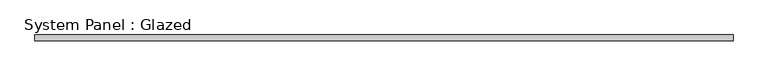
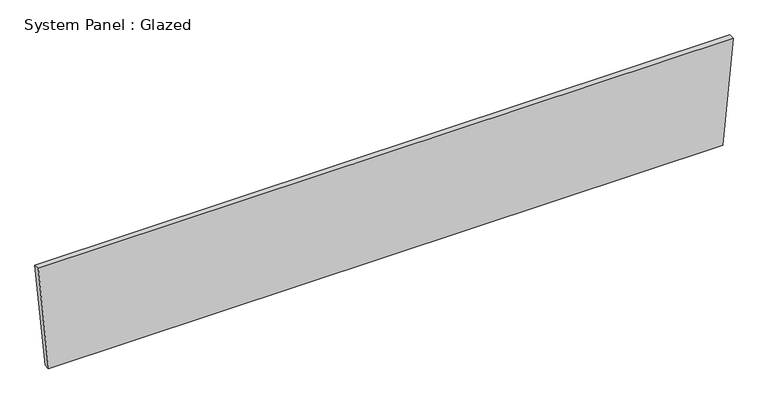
"""IFC4 building model written with IfcOpenShell, lengths in millimetres: plate geometry, System Panel : Glazed."""

from ifc_helpers import new_model, si_unit, frame, origin, place, context, project, spatial, polyline, outline, extrude, source, transform, mapped, element, save


def system_panel_glazed_4835debb(model_context):
    return source(origin(), model_context, "Body", "SweptSolid", [
        extrude(outline(polyline([(0.0, -1479.3854233), (0.0, 1479.3854233), (480.5136963, 1524.0), (480.5136963, -1524.0), (0.0, -1479.3854233)])), frame((0.0, -44.45, 0.0), z_axis=(0.0, 1.0, 0.0), x_axis=(0.0, 0.0, 1.0)), (0.0, 0.0, 1.0), 25.4),
    ])


if __name__ == "__main__":
    model = new_model("IFC4")
    model_context = context("Model", 3, world=origin())
    ifc_project = project(units=[si_unit("LENGTHUNIT", "METRE", prefix="MILLI")], contexts=[model_context])
    site = spatial("IfcSite", under=ifc_project)
    building = spatial("IfcBuilding", under=site)
    placement = place(None, origin())
    system_panel_glazed_shape = system_panel_glazed_4835debb(model_context)
    element("IfcPlate", 1, ObjectType="System Panel : Glazed", at=placement, inside=building, context=model_context, shape_type="MappedRepresentation", body=[
        mapped(system_panel_glazed_shape, transform((0.0, 0.0, 0.0), x_axis=(1.0, 0.0, 0.0), y_axis=(0.0, 1.0, 0.0), z_axis=(0.0, 0.0, 1.0))),
    ])
    save(model, "model.ifc")
